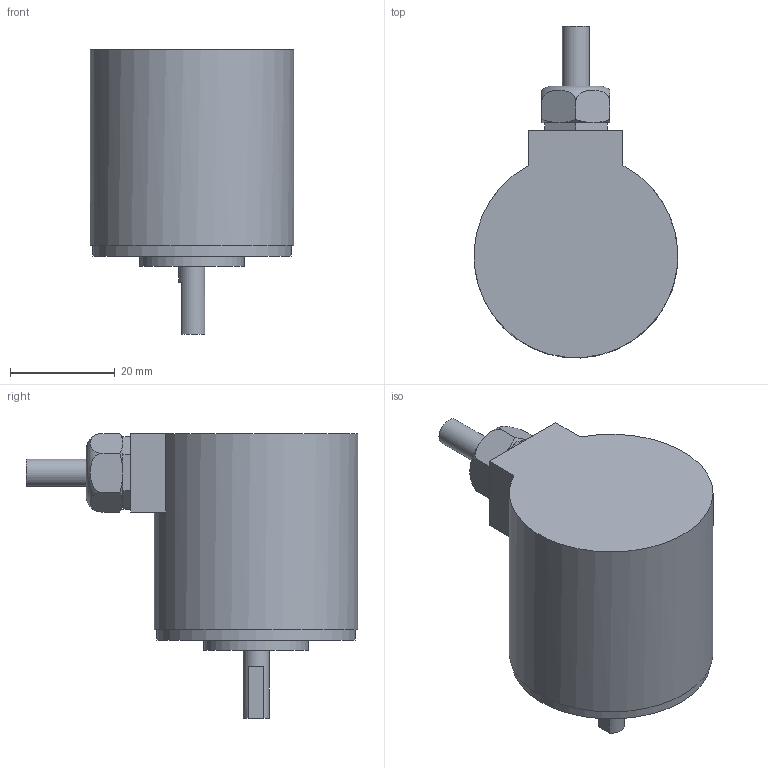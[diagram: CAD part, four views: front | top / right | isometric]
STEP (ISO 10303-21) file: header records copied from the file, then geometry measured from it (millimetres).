
FILE_DESCRIPTION(('OVF-2MC-500'),'2;1');
FILE_NAME('C:\Users\user\Documents\Inventor\配布用外径データ\配布用STEP\OVF-2MC-500.stp','2019-05-09T11:16:03',('Nemicon Corp.'),('Nemicon Corp.'),'Autodesk Inventor 2011','Autodesk Inventor 2011','');
FILE_SCHEMA(('AUTOMOTIVE_DESIGN { 1 0 10303 214 1 1 1 1 }'));
Length unit declared in the file: millimetre
Products named in the file (1): OVF-2MC-500
Bounding box: 38.96 x 63.48 x 54.51 mm (x, y, z)
Volume: 50678.6 mm3; surface area: 8637.5 mm2
Topology: 1 solids, 1 shells, 55 faces, 128 edges, 80 vertices
Faces by surface type: plane 37, cone 9, cylinder 8, torus 1
Full cylindrical faces by diameter (mm): 2.459 x3, 5 x1, 5.2 x1, 20 x1, 38 x1, 39 x1
Entity records: 1556 total; most frequent: CARTESIAN_POINT 374, DIRECTION 242, ORIENTED_EDGE 222, EDGE_CURVE 111, AXIS2_PLACEMENT_3D 93, VERTEX_POINT 75, EDGE_LOOP 72, VECTOR 56
